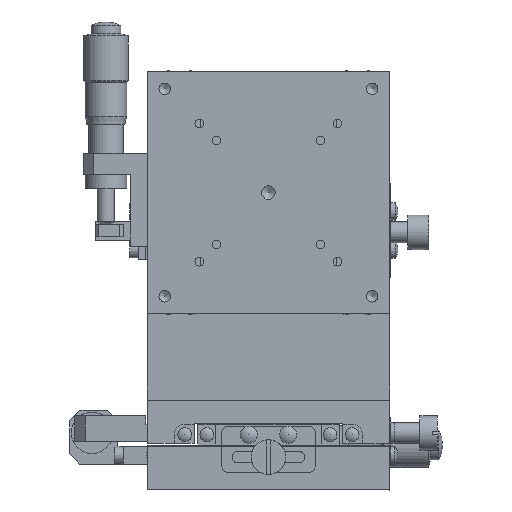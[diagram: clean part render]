
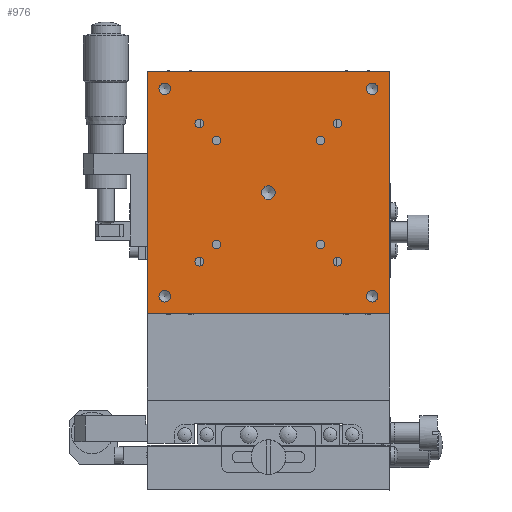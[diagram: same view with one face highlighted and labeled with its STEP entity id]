
A CAD part, front view. The second image highlights one B-rep face of the part: STEP entity #976.
In plain terms, the highlighted planar face has unit normal (0, -1, 0).
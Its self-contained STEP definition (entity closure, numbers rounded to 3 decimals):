
#976 = ADVANCED_FACE( '', ( #2393, #2394, #2395, #2396, #2397, #2398, #2399, #2400, #2401, #2402, #2403, #2404, #2405, #2406 ), #2407, .T. );
#2393 = FACE_BOUND( '', #4033, .T. );
#2394 = FACE_BOUND( '', #4034, .T. );
#2395 = FACE_BOUND( '', #4035, .T. );
#2396 = FACE_BOUND( '', #4036, .T. );
#2397 = FACE_BOUND( '', #4037, .T. );
#2398 = FACE_BOUND( '', #4038, .T. );
#2399 = FACE_BOUND( '', #4039, .T. );
#2400 = FACE_BOUND( '', #4040, .T. );
#2401 = FACE_BOUND( '', #4041, .T. );
#2402 = FACE_BOUND( '', #4042, .T. );
#2403 = FACE_BOUND( '', #4043, .T. );
#2404 = FACE_BOUND( '', #4044, .T. );
#2405 = FACE_BOUND( '', #4045, .T. );
#2406 = FACE_OUTER_BOUND( '', #4046, .T. );
#2407 = PLANE( '', #4047 );
#4033 = EDGE_LOOP( '', ( #8041 ) );
#4034 = EDGE_LOOP( '', ( #8042 ) );
#4035 = EDGE_LOOP( '', ( #8043 ) );
#4036 = EDGE_LOOP( '', ( #8044 ) );
#4037 = EDGE_LOOP( '', ( #8045 ) );
#4038 = EDGE_LOOP( '', ( #8046 ) );
#4039 = EDGE_LOOP( '', ( #8047 ) );
#4040 = EDGE_LOOP( '', ( #8048 ) );
#4041 = EDGE_LOOP( '', ( #8049 ) );
#4042 = EDGE_LOOP( '', ( #8050 ) );
#4043 = EDGE_LOOP( '', ( #8051 ) );
#4044 = EDGE_LOOP( '', ( #8052 ) );
#4045 = EDGE_LOOP( '', ( #8053 ) );
#4046 = EDGE_LOOP( '', ( #8054, #8055, #8056, #8057 ) );
#4047 = AXIS2_PLACEMENT_3D( '', #8058, #8059, #8060 );
#8041 = ORIENTED_EDGE( '', *, *, #9888, .T. );
#8042 = ORIENTED_EDGE( '', *, *, #9889, .T. );
#8043 = ORIENTED_EDGE( '', *, *, #9890, .T. );
#8044 = ORIENTED_EDGE( '', *, *, #9891, .T. );
#8045 = ORIENTED_EDGE( '', *, *, #9892, .T. );
#8046 = ORIENTED_EDGE( '', *, *, #9893, .T. );
#8047 = ORIENTED_EDGE( '', *, *, #9894, .T. );
#8048 = ORIENTED_EDGE( '', *, *, #9895, .T. );
#8049 = ORIENTED_EDGE( '', *, *, #9896, .T. );
#8050 = ORIENTED_EDGE( '', *, *, #9897, .T. );
#8051 = ORIENTED_EDGE( '', *, *, #9898, .T. );
#8052 = ORIENTED_EDGE( '', *, *, #9899, .T. );
#8053 = ORIENTED_EDGE( '', *, *, #9900, .T. );
#8054 = ORIENTED_EDGE( '', *, *, #9901, .F. );
#8055 = ORIENTED_EDGE( '', *, *, #9902, .F. );
#8056 = ORIENTED_EDGE( '', *, *, #9903, .F. );
#8057 = ORIENTED_EDGE( '', *, *, #9881, .F. );
#8058 = CARTESIAN_POINT( '', ( 0., -47., 86. ) );
#8059 = DIRECTION( '', ( 0., -1., 0. ) );
#8060 = DIRECTION( '', ( 1., 0., 0. ) );
#9881 = EDGE_CURVE( '', #11925, #11927, #11928, .T. );
#9888 = EDGE_CURVE( '', #11940, #11940, #11941, .T. );
#9889 = EDGE_CURVE( '', #11942, #11942, #11943, .T. );
#9890 = EDGE_CURVE( '', #11944, #11944, #11945, .T. );
#9891 = EDGE_CURVE( '', #11946, #11946, #11947, .T. );
#9892 = EDGE_CURVE( '', #11948, #11948, #11949, .T. );
#9893 = EDGE_CURVE( '', #11950, #11950, #11951, .T. );
#9894 = EDGE_CURVE( '', #11952, #11952, #11953, .T. );
#9895 = EDGE_CURVE( '', #11954, #11954, #11955, .T. );
#9896 = EDGE_CURVE( '', #11956, #11956, #11957, .T. );
#9897 = EDGE_CURVE( '', #11958, #11958, #11959, .T. );
#9898 = EDGE_CURVE( '', #11960, #11960, #11961, .T. );
#9899 = EDGE_CURVE( '', #11962, #11962, #11963, .T. );
#9900 = EDGE_CURVE( '', #11964, #11964, #11965, .T. );
#9901 = EDGE_CURVE( '', #11966, #11925, #11967, .T. );
#9902 = EDGE_CURVE( '', #11968, #11966, #11969, .T. );
#9903 = EDGE_CURVE( '', #11927, #11968, #11970, .T. );
#11925 = VERTEX_POINT( '', #14836 );
#11927 = VERTEX_POINT( '', #14839 );
#11928 = LINE( '', #14840, #14841 );
#11940 = VERTEX_POINT( '', #14859 );
#11941 = CIRCLE( '', #14860, 2. );
#11942 = VERTEX_POINT( '', #14861 );
#11943 = CIRCLE( '', #14862, 1.25 );
#11944 = VERTEX_POINT( '', #14863 );
#11945 = CIRCLE( '', #14864, 1.25 );
#11946 = VERTEX_POINT( '', #14865 );
#11947 = CIRCLE( '', #14866, 1.25 );
#11948 = VERTEX_POINT( '', #14867 );
#11949 = CIRCLE( '', #14868, 1.25 );
#11950 = VERTEX_POINT( '', #14869 );
#11951 = CIRCLE( '', #14870, 1.65 );
#11952 = VERTEX_POINT( '', #14871 );
#11953 = CIRCLE( '', #14872, 1.65 );
#11954 = VERTEX_POINT( '', #14873 );
#11955 = CIRCLE( '', #14874, 1.65 );
#11956 = VERTEX_POINT( '', #14875 );
#11957 = CIRCLE( '', #14876, 1.65 );
#11958 = VERTEX_POINT( '', #14877 );
#11959 = CIRCLE( '', #14878, 1.25 );
#11960 = VERTEX_POINT( '', #14879 );
#11961 = CIRCLE( '', #14880, 1.25 );
#11962 = VERTEX_POINT( '', #14881 );
#11963 = CIRCLE( '', #14882, 1.25 );
#11964 = VERTEX_POINT( '', #14883 );
#11965 = CIRCLE( '', #14884, 1.25 );
#11966 = VERTEX_POINT( '', #14885 );
#11967 = LINE( '', #14886, #14887 );
#11968 = VERTEX_POINT( '', #14888 );
#11969 = LINE( '', #14889, #14890 );
#11970 = LINE( '', #14891, #14892 );
#14836 = CARTESIAN_POINT( '', ( -35., -47., 51. ) );
#14839 = CARTESIAN_POINT( '', ( -35., -47., 121. ) );
#14840 = CARTESIAN_POINT( '', ( -35., -47., 86. ) );
#14841 = VECTOR( '', #17083, 1000. );
#14859 = CARTESIAN_POINT( '', ( 2., -47., 86. ) );
#14860 = AXIS2_PLACEMENT_3D( '', #17090, #17091, #17092 );
#14861 = CARTESIAN_POINT( '', ( 16.25, -47., 101. ) );
#14862 = AXIS2_PLACEMENT_3D( '', #17093, #17094, #17095 );
#14863 = CARTESIAN_POINT( '', ( -13.75, -47., 101. ) );
#14864 = AXIS2_PLACEMENT_3D( '', #17096, #17097, #17098 );
#14865 = CARTESIAN_POINT( '', ( -13.75, -47., 71. ) );
#14866 = AXIS2_PLACEMENT_3D( '', #17099, #17100, #17101 );
#14867 = CARTESIAN_POINT( '', ( 16.25, -47., 71. ) );
#14868 = AXIS2_PLACEMENT_3D( '', #17102, #17103, #17104 );
#14869 = CARTESIAN_POINT( '', ( 31.65, -47., 116. ) );
#14870 = AXIS2_PLACEMENT_3D( '', #17105, #17106, #17107 );
#14871 = CARTESIAN_POINT( '', ( -28.35, -47., 116. ) );
#14872 = AXIS2_PLACEMENT_3D( '', #17108, #17109, #17110 );
#14873 = CARTESIAN_POINT( '', ( -28.35, -47., 56. ) );
#14874 = AXIS2_PLACEMENT_3D( '', #17111, #17112, #17113 );
#14875 = CARTESIAN_POINT( '', ( 31.65, -47., 56. ) );
#14876 = AXIS2_PLACEMENT_3D( '', #17114, #17115, #17116 );
#14877 = CARTESIAN_POINT( '', ( 21.25, -47., 106. ) );
#14878 = AXIS2_PLACEMENT_3D( '', #17117, #17118, #17119 );
#14879 = CARTESIAN_POINT( '', ( -18.75, -47., 106. ) );
#14880 = AXIS2_PLACEMENT_3D( '', #17120, #17121, #17122 );
#14881 = CARTESIAN_POINT( '', ( -18.75, -47., 66. ) );
#14882 = AXIS2_PLACEMENT_3D( '', #17123, #17124, #17125 );
#14883 = CARTESIAN_POINT( '', ( 21.25, -47., 66. ) );
#14884 = AXIS2_PLACEMENT_3D( '', #17126, #17127, #17128 );
#14885 = CARTESIAN_POINT( '', ( 35., -47., 51. ) );
#14886 = CARTESIAN_POINT( '', ( 0., -47., 51. ) );
#14887 = VECTOR( '', #17129, 1000. );
#14888 = CARTESIAN_POINT( '', ( 35., -47., 121. ) );
#14889 = CARTESIAN_POINT( '', ( 35., -47., 86. ) );
#14890 = VECTOR( '', #17130, 1000. );
#14891 = CARTESIAN_POINT( '', ( 0., -47., 121. ) );
#14892 = VECTOR( '', #17131, 1000. );
#17083 = DIRECTION( '', ( 0., 0., 1. ) );
#17090 = CARTESIAN_POINT( '', ( 0., -47., 86. ) );
#17091 = DIRECTION( '', ( 0., 1., 0. ) );
#17092 = DIRECTION( '', ( 1., 0., 0. ) );
#17093 = CARTESIAN_POINT( '', ( 15., -47., 101. ) );
#17094 = DIRECTION( '', ( 0., 1., 0. ) );
#17095 = DIRECTION( '', ( 1., 0., 0. ) );
#17096 = CARTESIAN_POINT( '', ( -15., -47., 101. ) );
#17097 = DIRECTION( '', ( 0., 1., 0. ) );
#17098 = DIRECTION( '', ( 1., 0., 0. ) );
#17099 = CARTESIAN_POINT( '', ( -15., -47., 71. ) );
#17100 = DIRECTION( '', ( 0., 1., 0. ) );
#17101 = DIRECTION( '', ( 1., 0., 0. ) );
#17102 = CARTESIAN_POINT( '', ( 15., -47., 71. ) );
#17103 = DIRECTION( '', ( 0., 1., 0. ) );
#17104 = DIRECTION( '', ( 1., 0., 0. ) );
#17105 = CARTESIAN_POINT( '', ( 30., -47., 116. ) );
#17106 = DIRECTION( '', ( 0., 1., 0. ) );
#17107 = DIRECTION( '', ( 1., 0., 0. ) );
#17108 = CARTESIAN_POINT( '', ( -30., -47., 116. ) );
#17109 = DIRECTION( '', ( 0., 1., 0. ) );
#17110 = DIRECTION( '', ( 1., 0., 0. ) );
#17111 = CARTESIAN_POINT( '', ( -30., -47., 56. ) );
#17112 = DIRECTION( '', ( 0., 1., 0. ) );
#17113 = DIRECTION( '', ( 1., 0., 0. ) );
#17114 = CARTESIAN_POINT( '', ( 30., -47., 56. ) );
#17115 = DIRECTION( '', ( 0., 1., 0. ) );
#17116 = DIRECTION( '', ( 1., 0., 0. ) );
#17117 = CARTESIAN_POINT( '', ( 20., -47., 106. ) );
#17118 = DIRECTION( '', ( 0., 1., 0. ) );
#17119 = DIRECTION( '', ( 1., 0., 0. ) );
#17120 = CARTESIAN_POINT( '', ( -20., -47., 106. ) );
#17121 = DIRECTION( '', ( 0., 1., 0. ) );
#17122 = DIRECTION( '', ( 1., 0., 0. ) );
#17123 = CARTESIAN_POINT( '', ( -20., -47., 66. ) );
#17124 = DIRECTION( '', ( 0., 1., 0. ) );
#17125 = DIRECTION( '', ( 1., 0., 0. ) );
#17126 = CARTESIAN_POINT( '', ( 20., -47., 66. ) );
#17127 = DIRECTION( '', ( 0., 1., 0. ) );
#17128 = DIRECTION( '', ( 1., 0., 0. ) );
#17129 = DIRECTION( '', ( -1., 0., 0. ) );
#17130 = DIRECTION( '', ( 0., 0., -1. ) );
#17131 = DIRECTION( '', ( 1., 0., 0. ) );
